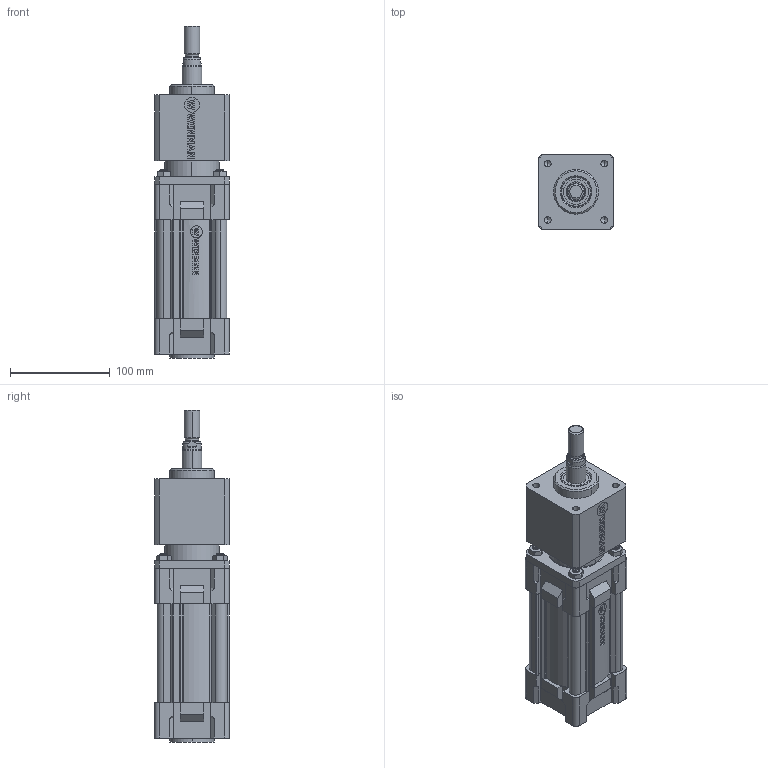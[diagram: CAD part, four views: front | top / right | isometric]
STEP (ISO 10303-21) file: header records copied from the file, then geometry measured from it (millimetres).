
FILE_DESCRIPTION (( 'STEP AP214' ), '1' );
FILE_NAME ('WALCK-063-0050 (MDMY).STEP', '2017-04-26T12:35:17', ( 'Hidtek' ), ( '' ), 'SwSTEP 2.0', 'SolidWorks 2016', '' );
FILE_SCHEMA (( 'AUTOMOTIVE_DESIGN' ));
Length unit declared in the file: millimetre
Products named in the file (4): WALCK-063-0050 (MDMY); Group2^WALCK-063-0050 (MDMY); Group1^WALCK-063-0050 (MDMY); WI-RDLCK-063 (3DMY)-1^WALCK-063-0050 (MDMY)
Assembly tree (3 placements, depth 2):
  WALCK-063-0050 (MDMY)
    Group1^WALCK-063-0050 (MDMY)
    Group2^WALCK-063-0050 (MDMY)
    WI-RDLCK-063 (3DMY)-1^WALCK-063-0050 (MDMY)
Bounding box: 75 x 75 x 333 mm (x, y, z)
Volume: 1114788.2 mm3; surface area: 220399.3 mm2
Topology: 21 solids, 21 shells, 762 faces, 1897 edges, 1211 vertices
Faces by surface type: plane 470, cylinder 164, cone 118, bspline 6, torus 4
Entity records: 25490 total; most frequent: CARTESIAN_POINT 5372, ORIENTED_EDGE 3730, DIRECTION 3663, EDGE_CURVE 1865, VECTOR 1247, LINE 1247, VERTEX_POINT 1211, AXIS2_PLACEMENT_3D 1208
